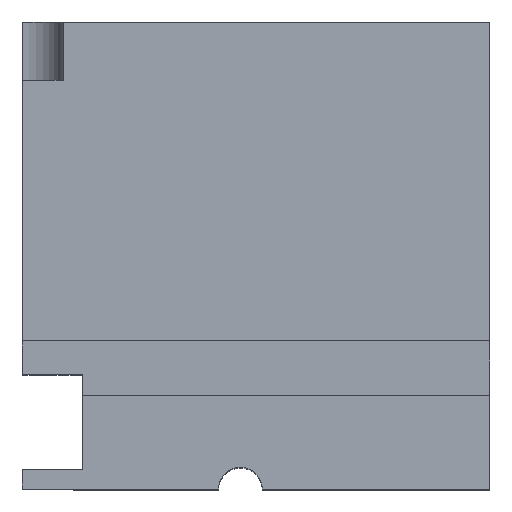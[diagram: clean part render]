
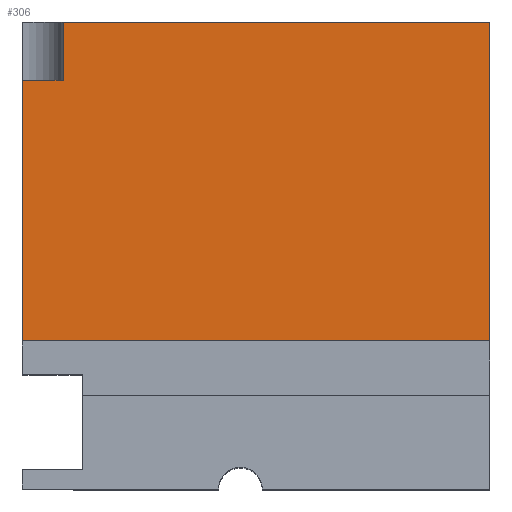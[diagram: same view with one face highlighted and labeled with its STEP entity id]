
A CAD part, top view. The second image highlights one B-rep face of the part: STEP entity #306.
In plain terms, the highlighted planar face has unit normal (0, 0, 1).
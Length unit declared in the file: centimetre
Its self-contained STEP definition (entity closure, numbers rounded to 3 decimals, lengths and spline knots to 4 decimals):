
#4 = VECTOR ( 'NONE', #969, 100. ) ;
#36 = LINE ( 'NONE', #445, #580 ) ;
#72 = ORIENTED_EDGE ( 'NONE', *, *, #983, .T. ) ;
#77 = EDGE_CURVE ( 'NONE', #1001, #639, #36, .T. ) ;
#116 = EDGE_CURVE ( 'NONE', #147, #639, #989, .T. ) ;
#119 = ORIENTED_EDGE ( 'NONE', *, *, #116, .T. ) ;
#120 = CARTESIAN_POINT ( 'NONE',  ( 0., 317.6596, 1000. ) ) ;
#147 = VERTEX_POINT ( 'NONE', #893 ) ;
#151 = LINE ( 'NONE', #489, #716 ) ;
#159 = CARTESIAN_POINT ( 'NONE',  ( 0., 875.2546, 1000. ) ) ;
#161 = CARTESIAN_POINT ( 'NONE',  ( 0., 0., 1000. ) ) ;
#193 = EDGE_CURVE ( 'NONE', #742, #700, #151, .T. ) ;
#196 = LINE ( 'NONE', #120, #4 ) ;
#225 = LINE ( 'NONE', #565, #620 ) ;
#240 = VECTOR ( 'NONE', #1072, 100. ) ;
#289 = EDGE_CURVE ( 'NONE', #1001, #742, #225, .T. ) ;
#302 = CARTESIAN_POINT ( 'NONE',  ( 0., 1000., 1000. ) ) ;
#306 = ADVANCED_FACE ( 'NONE', ( #593 ), #933, .T. ) ;
#315 = CARTESIAN_POINT ( 'NONE',  ( 1000., 317.6596, 1000. ) ) ;
#316 = CARTESIAN_POINT ( 'NONE',  ( 87.1822, 1000., 1000. ) ) ;
#393 = CARTESIAN_POINT ( 'NONE',  ( 1000., 1000., 1000. ) ) ;
#413 = ORIENTED_EDGE ( 'NONE', *, *, #710, .T. ) ;
#414 = AXIS2_PLACEMENT_3D ( 'NONE', #161, #500, #1016 ) ;
#445 = CARTESIAN_POINT ( 'NONE',  ( 87.1822, 875.2546, 1000. ) ) ;
#446 = EDGE_LOOP ( 'NONE', ( #798, #667, #615, #72, #413, #119 ) ) ;
#474 = DIRECTION ( 'NONE',  ( 0., -1., 0. ) ) ;
#489 = CARTESIAN_POINT ( 'NONE',  ( 0., 1000., 1000. ) ) ;
#500 = DIRECTION ( 'NONE',  ( 0., 0., 1. ) ) ;
#545 = CARTESIAN_POINT ( 'NONE',  ( 87.1822, 875.2546, 1000. ) ) ;
#565 = CARTESIAN_POINT ( 'NONE',  ( 0., 875.2546, 1000. ) ) ;
#577 = CARTESIAN_POINT ( 'NONE',  ( 0., 317.6596, 1000. ) ) ;
#580 = VECTOR ( 'NONE', #626, 100. ) ;
#593 = FACE_OUTER_BOUND ( 'NONE', #446, .T. ) ;
#615 = ORIENTED_EDGE ( 'NONE', *, *, #193, .T. ) ;
#620 = VECTOR ( 'NONE', #913, 100. ) ;
#626 = DIRECTION ( 'NONE',  ( 0., 1., 0. ) ) ;
#639 = VERTEX_POINT ( 'NONE', #316 ) ;
#667 = ORIENTED_EDGE ( 'NONE', *, *, #289, .T. ) ;
#700 = VERTEX_POINT ( 'NONE', #577 ) ;
#710 = EDGE_CURVE ( 'NONE', #1073, #147, #1095, .T. ) ;
#716 = VECTOR ( 'NONE', #474, 100. ) ;
#742 = VERTEX_POINT ( 'NONE', #159 ) ;
#764 = VECTOR ( 'NONE', #998, 100. ) ;
#798 = ORIENTED_EDGE ( 'NONE', *, *, #77, .F. ) ;
#893 = CARTESIAN_POINT ( 'NONE',  ( 1000., 1000., 1000. ) ) ;
#913 = DIRECTION ( 'NONE',  ( -1., 0., 0. ) ) ;
#933 = PLANE ( 'NONE',  #414 ) ;
#969 = DIRECTION ( 'NONE',  ( 1., 0., 0. ) ) ;
#983 = EDGE_CURVE ( 'NONE', #700, #1073, #196, .T. ) ;
#989 = LINE ( 'NONE', #302, #240 ) ;
#998 = DIRECTION ( 'NONE',  ( 0., 1., 0. ) ) ;
#1001 = VERTEX_POINT ( 'NONE', #545 ) ;
#1016 = DIRECTION ( 'NONE',  ( 1., 0., 0. ) ) ;
#1072 = DIRECTION ( 'NONE',  ( -1., 0., 0. ) ) ;
#1073 = VERTEX_POINT ( 'NONE', #315 ) ;
#1095 = LINE ( 'NONE', #393, #764 ) ;
